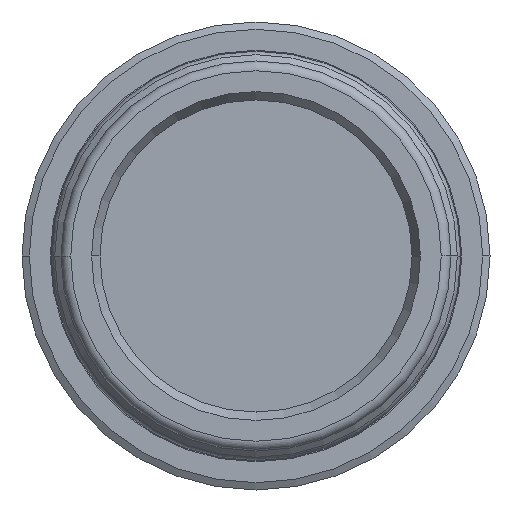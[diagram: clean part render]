
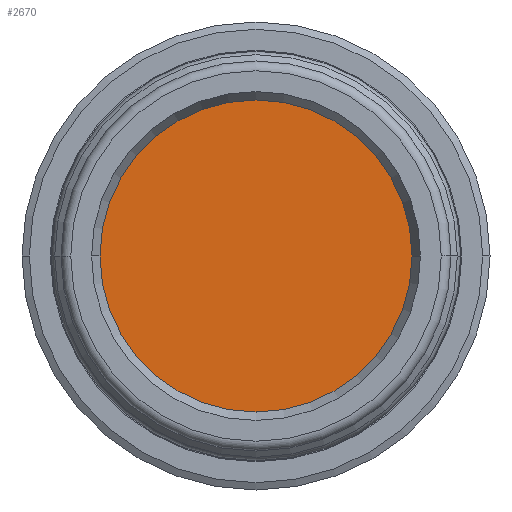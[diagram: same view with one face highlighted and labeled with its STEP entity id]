
A CAD part, front view. The second image highlights one B-rep face of the part: STEP entity #2670.
In plain terms, the highlighted planar face has unit normal (0, -1, 0).
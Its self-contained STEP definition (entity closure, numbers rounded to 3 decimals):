
#47 = AXIS2_PLACEMENT_3D ( 'NONE', #3849, #9976, #1384 ) ;
#720 = VERTEX_POINT ( 'NONE', #3061 ) ;
#988 = ORIENTED_EDGE ( 'NONE', *, *, #7240, .T. ) ;
#1089 = FACE_OUTER_BOUND ( 'NONE', #9957, .T. ) ;
#1384 = DIRECTION ( 'NONE',  ( 0., 0., -1. ) ) ;
#1835 = DIRECTION ( 'NONE',  ( 0., 0., -1. ) ) ;
#2054 = AXIS2_PLACEMENT_3D ( 'NONE', #7018, #3448, #1835 ) ;
#2571 = CIRCLE ( 'NONE', #47, 16. ) ;
#2670 = ADVANCED_FACE ( 'NONE', ( #1089 ), #9070, .T. ) ;
#3061 = CARTESIAN_POINT ( 'NONE',  ( 0., 0., -16. ) ) ;
#3448 = DIRECTION ( 'NONE',  ( 0., -1., 0. ) ) ;
#3849 = CARTESIAN_POINT ( 'NONE',  ( 0., 0., 0. ) ) ;
#4531 = ORIENTED_EDGE ( 'NONE', *, *, #4687, .T. ) ;
#4631 = VERTEX_POINT ( 'NONE', #7115 ) ;
#4687 = EDGE_CURVE ( 'NONE', #4631, #720, #2571, .T. ) ;
#7018 = CARTESIAN_POINT ( 'NONE',  ( 0., 0., 0. ) ) ;
#7115 = CARTESIAN_POINT ( 'NONE',  ( 0., 0., 16. ) ) ;
#7240 = EDGE_CURVE ( 'NONE', #720, #4631, #10677, .T. ) ;
#9070 = PLANE ( 'NONE',  #9415 ) ;
#9290 = DIRECTION ( 'NONE',  ( 0., -1., 0. ) ) ;
#9415 = AXIS2_PLACEMENT_3D ( 'NONE', #10002, #9290, #10160 ) ;
#9957 = EDGE_LOOP ( 'NONE', ( #988, #4531 ) ) ;
#9976 = DIRECTION ( 'NONE',  ( 0., -1., 0. ) ) ;
#10002 = CARTESIAN_POINT ( 'NONE',  ( 0., 0., 0. ) ) ;
#10160 = DIRECTION ( 'NONE',  ( 0., 0., -1. ) ) ;
#10677 = CIRCLE ( 'NONE', #2054, 16. ) ;
